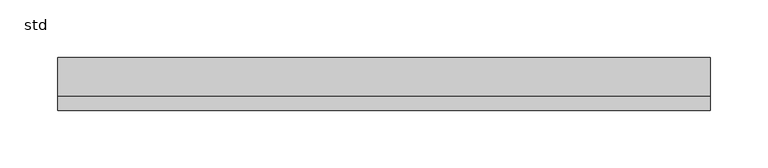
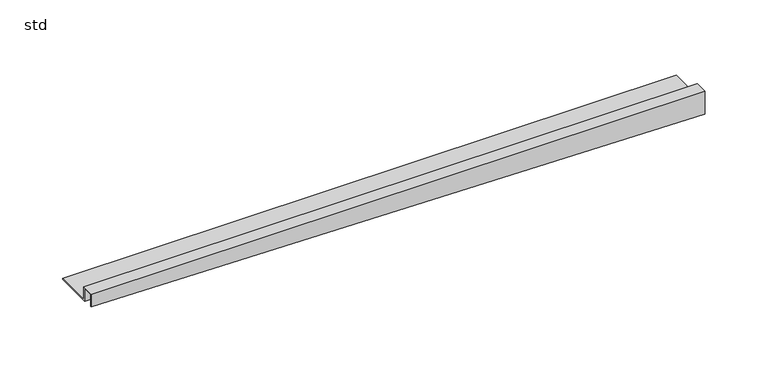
"""IFC4 building model written with IfcOpenShell, lengths in millimetres: sanitary terminal geometry, ZZZ_do not use_PF_ST_showerstep_ACO : std."""

import ifcopenshell
import ifcopenshell.guid

model = None  # the IFC model being written
_history = None  # IfcOwnerHistory: only IFC2X3 demands one
_inside = {}  # id of a spatial element -> (the spatial element, [elements in it])
_under = {}  # id of a project, library or spatial element -> (it, [spatial elements below it])
_declared = {}  # id of a project -> (the project, [libraries it declares])
_typed = {}  # id of a type object -> (the type object, [elements of that type])
_made_of = {}  # id of a material, layer set ... -> (it, [elements and type objects made of it])


def new_model(schema):
    """Start an empty IFC model of exactly this schema.

    Asked for "IFC4X3", IfcOpenShell would pick the latest addendum, in which some entities
    have other attributes; the version numbers below select the first issue.
    IFC2X3 requires an IfcOwnerHistory on every rooted entity: one is made here for all.
    """
    global model, _history
    if schema == "IFC4X3":
        model = ifcopenshell.file(schema_version=(4, 3, 0, 0))
    else:
        model = ifcopenshell.file(schema=schema)
    _inside.clear()
    _under.clear()
    _declared.clear()
    _typed.clear()
    _made_of.clear()
    _history = None
    if model.schema == "IFC2X3":
        org = make("IfcOrganization", Name="unknown")
        user = make(
            "IfcPersonAndOrganization",
            ThePerson=make("IfcPerson", FamilyName="unknown"),
            TheOrganization=org,
        )
        app = make(
            "IfcApplication",
            ApplicationDeveloper=org,
            Version="unknown",
            ApplicationFullName="unknown",
            ApplicationIdentifier="unknown",
        )
        _history = make(
            "IfcOwnerHistory",
            OwningUser=user,
            OwningApplication=app,
            ChangeAction="ADDED",
            CreationDate=0,
        )
    return model


def make(cls, **values):
    """One entity of the class cls with the attributes given. An attribute that is None is left unset."""
    return model.create_entity(
        cls, **{name: value for name, value in values.items() if value is not None}
    )


def rooted(cls, **values):
    """An entity with a GlobalId (a new one), such as an element, a storey or a relation."""
    return make(cls, GlobalId=ifcopenshell.guid.new(), OwnerHistory=_history, **values)


def si_unit(unit_type, name, prefix=None):
    """IfcSIUnit, for example si_unit("LENGTHUNIT", "METRE", prefix="MILLI")."""
    return make("IfcSIUnit", UnitType=unit_type, Prefix=prefix, Name=name)


def assignment(units):
    """IfcUnitAssignment: the units of a project."""
    return None if units is None else make("IfcUnitAssignment", Units=units)


def point(xyz):
    """IfcCartesianPoint."""
    return None if xyz is None else make("IfcCartesianPoint", Coordinates=xyz)


def direction(xyz):
    """IfcDirection."""
    return None if xyz is None else make("IfcDirection", DirectionRatios=xyz)


def frame(location, z_axis=None, x_axis=None):
    """IfcAxis2Placement3D, a coordinate frame: its origin and axes. An axis left out is left unset."""
    return make(
        "IfcAxis2Placement3D",
        Location=point(location),
        Axis=direction(z_axis),
        RefDirection=direction(x_axis),
    )


def origin():
    """The frame at (0, 0, 0) with its axes left unset."""
    return frame((0.0, 0.0, 0.0))


def place(relative_to, where):
    """IfcLocalPlacement: puts the frame where relative to a parent placement (None: the world)."""
    return make(
        "IfcLocalPlacement", PlacementRelTo=relative_to, RelativePlacement=where
    )


def context(
    kind, dimensions, precision=None, world=None, true_north=None, identifier=None
):
    """IfcGeometricRepresentationContext, for example the 3D "Model" context."""
    return make(
        "IfcGeometricRepresentationContext",
        ContextIdentifier=identifier,
        ContextType=kind,
        CoordinateSpaceDimension=dimensions,
        Precision=precision,
        WorldCoordinateSystem=world,
        TrueNorth=true_north,
    )


def project(units=None, contexts=None):
    """IfcProject with its units and contexts."""
    return rooted(
        "IfcProject",
        Name="project",
        RepresentationContexts=contexts,
        UnitsInContext=assignment(units),
    )


def spatial(cls, under=None, at=None, **own):
    """A site, building, storey or space (cls), placed at a placement, below another one or the project."""
    s = rooted(cls, ObjectPlacement=at, **own)
    if under is not None:
        _under.setdefault(under.id(), (under, []))[1].append(s)
    return s


def faces_of(points, faces, orient=None, outer=None):
    """IfcFace entities. A face is a list of loops; a loop is a list of indices into points, from 0.

    orient and outer hold one flag for each loop. By default every Orientation is true, the
    first loop of a face is its IfcFaceOuterBound and the others are IfcFaceBound.
    """
    made = []
    for i, loops in enumerate(faces):
        bounds = []
        for j, loop in enumerate(loops):
            is_outer = j == 0 if outer is None else outer[i][j]
            bounds.append(
                make(
                    "IfcFaceOuterBound" if is_outer else "IfcFaceBound",
                    Bound=make("IfcPolyLoop", Polygon=[points[k] for k in loop]),
                    Orientation=True if orient is None else orient[i][j],
                )
            )
        made.append(make("IfcFace", Bounds=bounds))
    return made


def faceted_brep(points, faces, orient=None, outer=None, voids=None):
    """IfcFacetedBrep: a solid bounded by flat faces; with voids (closed shells), ...WithVoids."""
    shared = [point(p) for p in points]
    hull = make("IfcClosedShell", CfsFaces=faces_of(shared, faces, orient, outer))
    if voids is None:
        return make("IfcFacetedBrep", Outer=hull)
    return make(
        "IfcFacetedBrepWithVoids",
        Outer=hull,
        Voids=[
            make(cls, CfsFaces=faces_of(shared, fs, o, b)) for cls, fs, o, b in voids
        ],
    )


def shape(context_of_items, identifier, shape_type, items):
    """IfcShapeRepresentation: the items that make up one representation, for example the "Body"."""
    return make(
        "IfcShapeRepresentation",
        ContextOfItems=context_of_items,
        RepresentationIdentifier=identifier,
        RepresentationType=shape_type,
        Items=items,
    )


def source(mapping_origin, context_of_items, identifier, shape_type, items):
    """IfcRepresentationMap: a shape defined once, which mapped items show again and again."""
    return make(
        "IfcRepresentationMap",
        MappingOrigin=mapping_origin,
        MappedRepresentation=shape(context_of_items, identifier, shape_type, items),
    )


def transform(
    local_origin,
    x_axis=None,
    y_axis=None,
    z_axis=None,
    scale=None,
    scale2=None,
    scale3=None,
    uniform=True,
):
    """IfcCartesianTransformationOperator3D, or its non-uniform kind. x_axis, y_axis, z_axis: its Axis1, 2, 3."""
    if uniform:
        return make(
            "IfcCartesianTransformationOperator3D",
            Axis1=direction(x_axis),
            Axis2=direction(y_axis),
            LocalOrigin=point(local_origin),
            Scale=scale,
            Axis3=direction(z_axis),
        )
    return make(
        "IfcCartesianTransformationOperator3DnonUniform",
        Axis1=direction(x_axis),
        Axis2=direction(y_axis),
        LocalOrigin=point(local_origin),
        Scale=scale,
        Axis3=direction(z_axis),
        Scale2=scale2,
        Scale3=scale3,
    )


def mapped(mapping_source, mapping_target):
    """IfcMappedItem: shows the shape of a source again, moved by a transform."""
    return make(
        "IfcMappedItem", MappingSource=mapping_source, MappingTarget=mapping_target
    )


def made_of(thing, what):
    """Note that an element or type object is made of a material, layer set ...; save() writes the relation."""
    if what is not None:
        _made_of.setdefault(what.id(), (what, []))[1].append(thing)
    return thing


def element(
    cls,
    number,
    at=None,
    inside=None,
    cuts=None,
    type_object=None,
    material=None,
    context=None,
    identifier="Body",
    shape_type=None,
    held_by="IfcProductDefinitionShape",
    body=None,
    shapes=None,
    **own,
):
    """One element of the class cls, such as IfcWall. Its Tag is "e" and its number.

    at: its placement. inside: the storey or other place that contains it. cuts: it is an
    opening in that element (IfcRelVoidsElement). A single representation is given by context,
    identifier, shape_type and body (its items); several are given by shapes. held_by: the class
    of the entity that holds the representations. save() writes the other relations.
    """
    e = rooted(cls, Tag="e%d" % number, ObjectPlacement=at, **own)
    if body is not None:
        shapes = [shape(context, identifier, shape_type, body)]
    if shapes is not None:
        e.Representation = make(held_by, Representations=shapes)
    if inside is not None:
        _inside.setdefault(inside.id(), (inside, []))[1].append(e)
    if cuts is not None:
        rooted(
            "IfcRelVoidsElement", RelatingBuildingElement=cuts, RelatedOpeningElement=e
        )
    if type_object is not None:
        _typed.setdefault(type_object.id(), (type_object, []))[1].append(e)
    return made_of(e, material)


def aggregate(whole, parts):
    """IfcRelAggregates: a whole, such as a stair, and the parts it consists of."""
    return rooted("IfcRelAggregates", RelatingObject=whole, RelatedObjects=parts)


def save(model, path):
    """Write the relations noted so far, then the file.

    IfcRelAggregates (storeys below a building ...), IfcRelContainedInSpatialStructure (elements
    in a storey), IfcRelDefinesByType, IfcRelAssociatesMaterial and IfcRelDeclares: one each for
    every whole, place, type object, material and project.
    """
    for whole, parts in _under.values():
        aggregate(whole, parts)
    for where, things in _inside.values():
        rooted(
            "IfcRelContainedInSpatialStructure",
            RelatedElements=things,
            RelatingStructure=where,
        )
    for kind, things in _typed.values():
        rooted("IfcRelDefinesByType", RelatedObjects=things, RelatingType=kind)
    for what, things in _made_of.values():
        rooted("IfcRelAssociatesMaterial", RelatedObjects=things, RelatingMaterial=what)
    for by, libraries in _declared.values():
        rooted("IfcRelDeclares", RelatingContext=by, RelatedDefinitions=libraries)
    model.write(path)


def std_3f80d74d(model_context):
    return source(origin(), model_context, "Body", "Brep", [
        faceted_brep([(0.0, 12.0076915, -12.5), (0.0, 46.0004219, -12.5), (0.0, 46.0004219, -13.5), (0.0, 11.0004219, -13.5), (0.0, 11.0004219, -1.0), (0.0, 1.0, -1.0), (0.0, 1.0, -12.5), (0.0, 0.0, -12.5), (0.0, 0.0, 0.0), (0.0, 12.0076915, 0.0), (566.0, 12.0076915, 0.0), (566.0, 12.0076915, -12.5), (566.0, 0.0, 0.0), (566.0, 0.0, -22.5050505), (566.0, 1.0, -22.5050505), (566.0, 1.0, -1.0), (566.0, 11.0004219, -1.0), (566.0, 11.0004219, -13.5), (566.0, 46.0004219, -13.5), (566.0, 46.0004219, -12.5)], [[[0, 1, 2, 3, 4, 5, 6, 7, 8, 9]], [[0, 9, 10, 11]], [[9, 8, 12, 10]], [[8, 7, 13, 12]], [[7, 6, 14, 13]], [[6, 5, 15, 14]], [[5, 4, 16, 15]], [[4, 3, 17, 16]], [[3, 2, 18, 17]], [[2, 1, 19, 18]], [[1, 0, 11, 19]], [[11, 10, 12, 13, 14, 15, 16, 17, 18, 19]]]),
    ])


if __name__ == "__main__":
    model = new_model("IFC4")
    model_context = context("Model", 3, world=origin())
    ifc_project = project(units=[si_unit("LENGTHUNIT", "METRE", prefix="MILLI")], contexts=[model_context])
    site = spatial("IfcSite", under=ifc_project)
    building = spatial("IfcBuilding", under=site)
    placement = place(None, origin())
    std_shape = std_3f80d74d(model_context)
    element("IfcSanitaryTerminal", 1, ObjectType="ZZZ_do not use_PF_ST_showerstep_ACO : std", at=placement, inside=building, context=model_context, shape_type="MappedRepresentation", body=[
        mapped(std_shape, transform((0.0, 0.0, 0.0), x_axis=(1.0, 0.0, 0.0), y_axis=(0.0, 1.0, 0.0), z_axis=(0.0, 0.0, 1.0))),
    ])
    save(model, "model.ifc")
